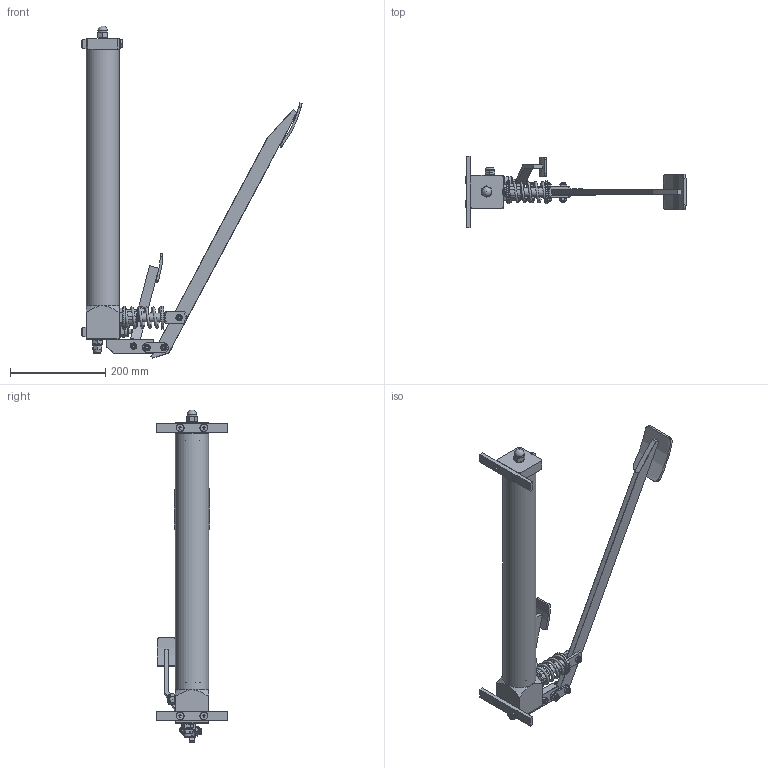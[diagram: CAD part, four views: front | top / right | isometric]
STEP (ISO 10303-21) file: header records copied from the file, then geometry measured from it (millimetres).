
FILE_DESCRIPTION((''),'2;1');
FILE_NAME('G:\HV_HYDRAULIC\AZIENDA_HV_HYDRAULIC\ARCHIVIO_DISEGNI\5_PRODOTTI_FINITI\1_POMPE_MANUALI\6089_PPSE_12\6089.0001_PPSE_12_byB_(HV)\6089.0001.stp','2024-04-02T11:28:54',('christian.scardovi'),(''),'Autodesk Inventor 2013','Autodesk Inventor 2013','');
FILE_SCHEMA(('AUTOMOTIVE_DESIGN { 1 0 10303 214 1 1 1 1 }'));
Length unit declared in the file: millimetre
Products named in the file (1): 6089.0001
Bounding box: 462.85 x 150 x 698.41 mm (x, y, z)
Volume: 1376575.4 mm3; surface area: 453949.2 mm2
Topology: 3 solids, 4 shells, 1242 faces, 3210 edges, 2059 vertices
Faces by surface type: plane 691, cone 193, cylinder 176, bspline 157, torus 21, sphere 4
Full cylindrical faces by diameter (mm): 2.15 x1, 3 x4, 4 x1, 4.917 x1, 5 x2, 6 x1, 6.5 x3, 6.647 x2, 7.8 x1, 8 x11, 9 x2, 10 x2, 11 x1, 11.05 x8, 11.445 x2, 12 x5, 13 x2, 13.5 x1, 14 x1, 14.884 x1, 14.95 x3, 15.24 x4, 16 x1, 16.6 x2, 17 x2, 18 x3, 18.376 x1, 18.5 x1, 18.7 x1, 19 x1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
Entity records: 40096 total; most frequent: CARTESIAN_POINT 11635, ORIENTED_EDGE 5812, DIRECTION 4919, EDGE_CURVE 2906, VERTEX_POINT 1958, VECTOR 1649, LINE 1649, AXIS2_PLACEMENT_3D 1635
